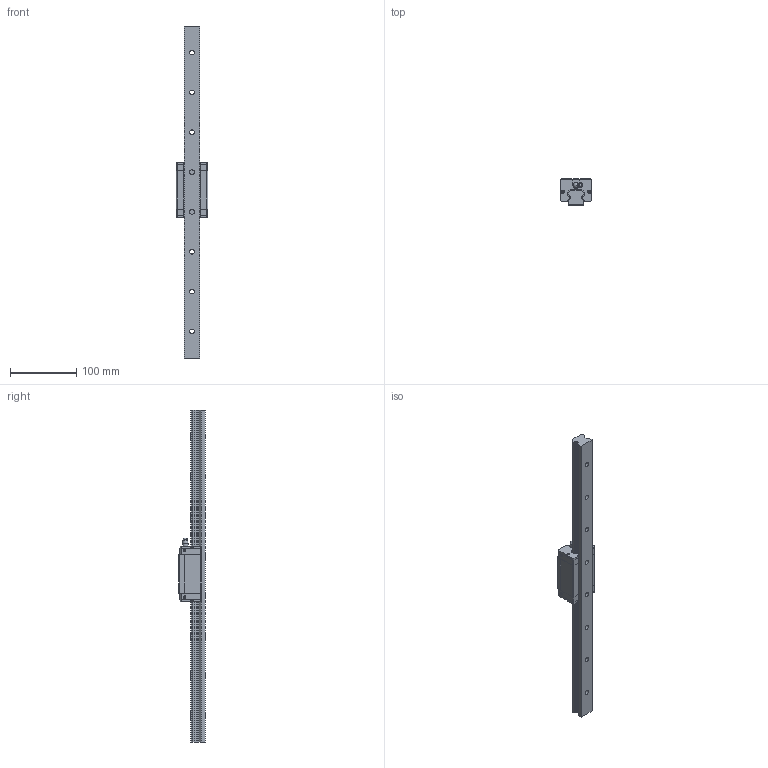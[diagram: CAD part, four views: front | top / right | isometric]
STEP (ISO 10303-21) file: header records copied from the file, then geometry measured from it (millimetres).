
FILE_DESCRIPTION(/* description */ ('STEP AP203'),/* implementation_level */ '2;1');
FILE_NAME(/* name */ 'D:\FOLDER Tomasz Michałek\pliki z pulpitu\Katalogi inne\Technika liniowa\NATECH\Modele 3D\NATECH linear block 3D drawing\NGH\NGH25CA\NGH25CA1R500.stp',/* time_stamp */ '2021-01-21T17:06:23+01:00',/* author */ ('dnia_tomasz_tm'),/* organization */ ('IT'),/* preprocessor_version */ 'ST-DEVELOPER v16.13',/* originating_system */ 'Autodesk Inventor 2018',/* authorisation */ '');
FILE_SCHEMA (('AUTOMOTIVE_DESIGN { 1 0 10303 214 3 1 1 }'));
Length unit declared in the file: millimetre
Products named in the file (3): NGH25CA1R500ZACI; GHH25CA1R500ZACI_1_GHH25CA; GHH25CA1R500ZACI_2_GHH25CA
Assembly tree (2 placements, depth 2):
  NGH25CA1R500ZACI
    GHH25CA1R500ZACI_1_GHH25CA
    GHH25CA1R500ZACI_2_GHH25CA
Bounding box: 48 x 40 x 500 mm (x, y, z)
Volume: 319926.4 mm3; surface area: 81454 mm2
Topology: 7 solids, 7 shells, 435 faces, 1134 edges, 747 vertices
Faces by surface type: plane 327, cylinder 70, cone 23, torus 9, sphere 5, bspline 1
Full cylindrical faces by diameter (mm): 0.526 x4, 3.725 x4, 3.9 x6, 4.5 x1, 4.8 x4, 6 x4, 7 x8, 8 x1, 11 x8
Entity records: 12988 total; most frequent: CARTESIAN_POINT 2347, ORIENTED_EDGE 2138, DIRECTION 2132, EDGE_CURVE 1069, LINE 810, VECTOR 810, VERTEX_POINT 738, AXIS2_PLACEMENT_3D 661
